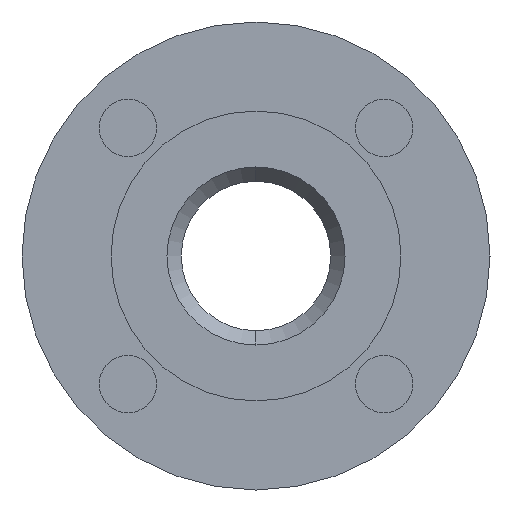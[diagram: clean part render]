
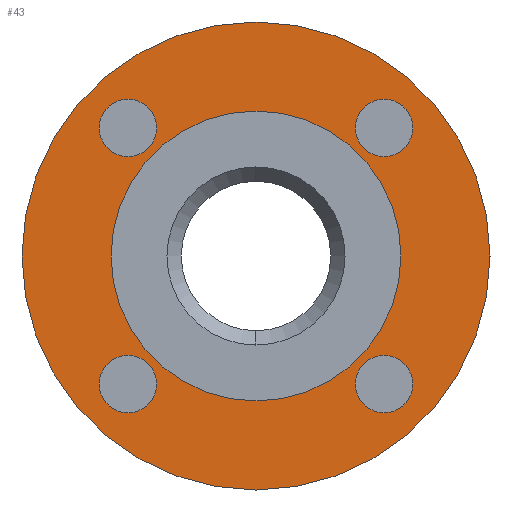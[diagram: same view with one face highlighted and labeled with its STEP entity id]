
A CAD part, left-side view. The second image highlights one B-rep face of the part: STEP entity #43.
In plain terms, the highlighted planar face has unit normal (-1, 0, 0).
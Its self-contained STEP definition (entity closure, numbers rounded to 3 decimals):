
#43=ADVANCED_FACE('',(#179,#180,#181,#182,#183,#184),#178,.T.);
#178=PLANE('',#1278);
#179=FACE_OUTER_BOUND('',#1279,.T.);
#180=FACE_BOUND('',#1280,.T.);
#181=FACE_BOUND('',#1281,.T.);
#182=FACE_BOUND('',#1282,.T.);
#183=FACE_BOUND('',#1283,.T.);
#184=FACE_BOUND('',#1284,.T.);
#1275=CARTESIAN_POINT('',(2.,-144.234,-165.));
#1276=DIRECTION('',(-1.,0.,0.));
#1277=DIRECTION('',(0.,0.,1.));
#1278=AXIS2_PLACEMENT_3D('',#1275,#1276,#1277);
#1279=EDGE_LOOP('',(#2258,#2259));
#1280=EDGE_LOOP('',(#2260,#2261));
#1281=EDGE_LOOP('',(#2262,#2263));
#1282=EDGE_LOOP('',(#2264,#2265));
#1283=EDGE_LOOP('',(#2266,#2267));
#1284=EDGE_LOOP('',(#2268,#2269));
#2258=ORIENTED_EDGE('',*,*,#2748,.T.);
#2259=ORIENTED_EDGE('',*,*,#2749,.T.);
#2260=ORIENTED_EDGE('',*,*,#2750,.F.);
#2261=ORIENTED_EDGE('',*,*,#2751,.F.);
#2262=ORIENTED_EDGE('',*,*,#2752,.F.);
#2263=ORIENTED_EDGE('',*,*,#2753,.F.);
#2264=ORIENTED_EDGE('',*,*,#2754,.F.);
#2265=ORIENTED_EDGE('',*,*,#2755,.F.);
#2266=ORIENTED_EDGE('',*,*,#2756,.F.);
#2267=ORIENTED_EDGE('',*,*,#2757,.F.);
#2268=ORIENTED_EDGE('',*,*,#2758,.F.);
#2269=ORIENTED_EDGE('',*,*,#2759,.F.);
#2748=EDGE_CURVE('',#3052,#3053,#3054,.T.);
#2749=EDGE_CURVE('',#3053,#3052,#3060,.T.);
#2750=EDGE_CURVE('',#3066,#3067,#3068,.T.);
#2751=EDGE_CURVE('',#3067,#3066,#3074,.T.);
#2752=EDGE_CURVE('',#3080,#3081,#3082,.T.);
#2753=EDGE_CURVE('',#3081,#3080,#3088,.T.);
#2754=EDGE_CURVE('',#3094,#3095,#3096,.T.);
#2755=EDGE_CURVE('',#3095,#3094,#3102,.T.);
#2756=EDGE_CURVE('',#3108,#3109,#3110,.T.);
#2757=EDGE_CURVE('',#3109,#3108,#3116,.T.);
#2758=EDGE_CURVE('',#3122,#3123,#3124,.T.);
#2759=EDGE_CURVE('',#3123,#3122,#3130,.T.);
#3052=VERTEX_POINT('',#4653);
#3053=VERTEX_POINT('',#4654);
#3054=CIRCLE('',#4658,77.5);
#3060=CIRCLE('',#4662,77.5);
#3066=VERTEX_POINT('',#4663);
#3067=VERTEX_POINT('',#4664);
#3068=CIRCLE('',#4668,9.5);
#3074=CIRCLE('',#4672,9.5);
#3080=VERTEX_POINT('',#4673);
#3081=VERTEX_POINT('',#4674);
#3082=CIRCLE('',#4678,9.5);
#3088=CIRCLE('',#4682,9.5);
#3094=VERTEX_POINT('',#4683);
#3095=VERTEX_POINT('',#4684);
#3096=CIRCLE('',#4688,48.);
#3102=CIRCLE('',#4692,48.);
#3108=VERTEX_POINT('',#4693);
#3109=VERTEX_POINT('',#4694);
#3110=CIRCLE('',#4698,9.5);
#3116=CIRCLE('',#4702,9.5);
#3122=VERTEX_POINT('',#4703);
#3123=VERTEX_POINT('',#4704);
#3124=CIRCLE('',#4708,9.5);
#3130=CIRCLE('',#4712,9.5);
#4653=CARTESIAN_POINT('',(2.,0.,77.5));
#4654=CARTESIAN_POINT('',(2.,0.,-77.5));
#4655=CARTESIAN_POINT('',(2.,0.,0.));
#4656=DIRECTION('',(-1.,0.,0.));
#4657=DIRECTION('',(0.,0.,1.));
#4658=AXIS2_PLACEMENT_3D('',#4655,#4656,#4657);
#4659=CARTESIAN_POINT('',(2.,0.,0.));
#4660=DIRECTION('',(-1.,0.,0.));
#4661=DIRECTION('',(0.,0.,1.));
#4662=AXIS2_PLACEMENT_3D('',#4659,#4660,#4661);
#4663=CARTESIAN_POINT('',(2.,42.426,-32.926));
#4664=CARTESIAN_POINT('',(2.,42.426,-51.926));
#4665=CARTESIAN_POINT('',(2.,42.426,-42.426));
#4666=DIRECTION('',(-1.,0.,0.));
#4667=DIRECTION('',(0.,0.,-1.));
#4668=AXIS2_PLACEMENT_3D('',#4665,#4666,#4667);
#4669=CARTESIAN_POINT('',(2.,42.426,-42.426));
#4670=DIRECTION('',(-1.,0.,0.));
#4671=DIRECTION('',(0.,0.,-1.));
#4672=AXIS2_PLACEMENT_3D('',#4669,#4670,#4671);
#4673=CARTESIAN_POINT('',(2.,-42.426,51.926));
#4674=CARTESIAN_POINT('',(2.,-42.426,32.926));
#4675=CARTESIAN_POINT('',(2.,-42.426,42.426));
#4676=DIRECTION('',(-1.,0.,0.));
#4677=DIRECTION('',(0.,0.,-1.));
#4678=AXIS2_PLACEMENT_3D('',#4675,#4676,#4677);
#4679=CARTESIAN_POINT('',(2.,-42.426,42.426));
#4680=DIRECTION('',(-1.,0.,0.));
#4681=DIRECTION('',(0.,0.,-1.));
#4682=AXIS2_PLACEMENT_3D('',#4679,#4680,#4681);
#4683=CARTESIAN_POINT('',(2.,0.,-48.));
#4684=CARTESIAN_POINT('',(2.,0.,48.));
#4685=CARTESIAN_POINT('',(2.,0.,0.));
#4686=DIRECTION('',(-1.,0.,0.));
#4687=DIRECTION('',(0.,0.,1.));
#4688=AXIS2_PLACEMENT_3D('',#4685,#4686,#4687);
#4689=CARTESIAN_POINT('',(2.,0.,0.));
#4690=DIRECTION('',(-1.,0.,0.));
#4691=DIRECTION('',(0.,0.,1.));
#4692=AXIS2_PLACEMENT_3D('',#4689,#4690,#4691);
#4693=CARTESIAN_POINT('',(2.,-42.426,-32.926));
#4694=CARTESIAN_POINT('',(2.,-42.426,-51.926));
#4695=CARTESIAN_POINT('',(2.,-42.426,-42.426));
#4696=DIRECTION('',(-1.,0.,0.));
#4697=DIRECTION('',(0.,0.,-1.));
#4698=AXIS2_PLACEMENT_3D('',#4695,#4696,#4697);
#4699=CARTESIAN_POINT('',(2.,-42.426,-42.426));
#4700=DIRECTION('',(-1.,0.,0.));
#4701=DIRECTION('',(0.,0.,-1.));
#4702=AXIS2_PLACEMENT_3D('',#4699,#4700,#4701);
#4703=CARTESIAN_POINT('',(2.,42.426,51.926));
#4704=CARTESIAN_POINT('',(2.,42.426,32.926));
#4705=CARTESIAN_POINT('',(2.,42.426,42.426));
#4706=DIRECTION('',(-1.,0.,0.));
#4707=DIRECTION('',(0.,0.,-1.));
#4708=AXIS2_PLACEMENT_3D('',#4705,#4706,#4707);
#4709=CARTESIAN_POINT('',(2.,42.426,42.426));
#4710=DIRECTION('',(-1.,0.,0.));
#4711=DIRECTION('',(0.,0.,-1.));
#4712=AXIS2_PLACEMENT_3D('',#4709,#4710,#4711);
